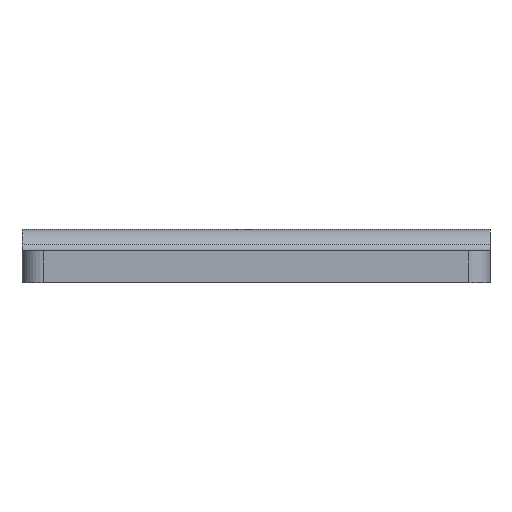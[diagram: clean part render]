
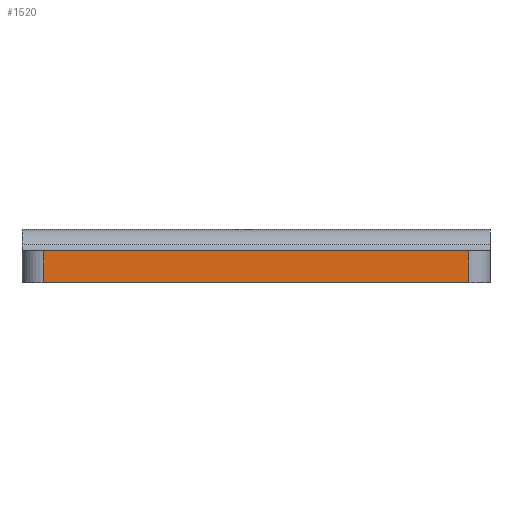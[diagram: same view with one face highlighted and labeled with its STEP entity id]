
A CAD part, front view. The second image highlights one B-rep face of the part: STEP entity #1520.
In plain terms, the highlighted planar face has unit normal (0, -1, 0).
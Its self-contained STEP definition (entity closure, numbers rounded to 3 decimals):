
#116 = EDGE_LOOP ( 'NONE', ( #1411, #1420, #1419, #1431 ) ) ;
#441 = DIRECTION ( 'NONE',  ( -1., 0., 0. ) ) ;
#528 = DIRECTION ( 'NONE',  ( 0., 0., 1. ) ) ;
#529 = DIRECTION ( 'NONE',  ( 0., 0., -1. ) ) ;
#533 = CARTESIAN_POINT ( 'NONE',  ( 84., -120., 1. ) ) ;
#534 = CARTESIAN_POINT ( 'NONE',  ( 4., -120., -5. ) ) ;
#737 = AXIS2_PLACEMENT_3D ( 'NONE', #895, #1307, #893 ) ;
#771 = LINE ( 'NONE', #534, #775 ) ;
#775 = VECTOR ( 'NONE', #529, 1000. ) ;
#788 = VECTOR ( 'NONE', #528, 1000. ) ;
#791 = LINE ( 'NONE', #533, #788 ) ;
#796 = VECTOR ( 'NONE', #441, 1000. ) ;
#800 = LINE ( 'NONE', #1077, #796 ) ;
#806 = VECTOR ( 'NONE', #1093, 1000. ) ;
#808 = LINE ( 'NONE', #1122, #806 ) ;
#843 = FACE_OUTER_BOUND ( 'NONE', #116, .T. ) ;
#893 = DIRECTION ( 'NONE',  ( 0., 0., 1. ) ) ;
#895 = CARTESIAN_POINT ( 'NONE',  ( 88., -120., -5. ) ) ;
#901 = PLANE ( 'NONE',  #737 ) ;
#977 = CARTESIAN_POINT ( 'NONE',  ( 84., -120., 1. ) ) ;
#988 = VERTEX_POINT ( 'NONE', #1016 ) ;
#1016 = CARTESIAN_POINT ( 'NONE',  ( 4., -120., -5. ) ) ;
#1024 = CARTESIAN_POINT ( 'NONE',  ( 84., -120., -5. ) ) ;
#1053 = CARTESIAN_POINT ( 'NONE',  ( 4., -120., 1. ) ) ;
#1067 = VERTEX_POINT ( 'NONE', #977 ) ;
#1077 = CARTESIAN_POINT ( 'NONE',  ( 88., -120., -5. ) ) ;
#1093 = DIRECTION ( 'NONE',  ( -1., 0., 0. ) ) ;
#1122 = CARTESIAN_POINT ( 'NONE',  ( 88., -120., 1. ) ) ;
#1286 = VERTEX_POINT ( 'NONE', #1053 ) ;
#1290 = VERTEX_POINT ( 'NONE', #1024 ) ;
#1307 = DIRECTION ( 'NONE',  ( 0., 1., 0. ) ) ;
#1411 = ORIENTED_EDGE ( 'NONE', *, *, #1555, .F. ) ;
#1419 = ORIENTED_EDGE ( 'NONE', *, *, #1552, .T. ) ;
#1420 = ORIENTED_EDGE ( 'NONE', *, *, #1557, .T. ) ;
#1431 = ORIENTED_EDGE ( 'NONE', *, *, #1558, .T. ) ;
#1520 = ADVANCED_FACE ( 'NONE', ( #843 ), #901, .F. ) ;
#1552 = EDGE_CURVE ( 'NONE', #1067, #1286, #808, .T. ) ;
#1555 = EDGE_CURVE ( 'NONE', #1290, #988, #800, .T. ) ;
#1557 = EDGE_CURVE ( 'NONE', #1290, #1067, #791, .T. ) ;
#1558 = EDGE_CURVE ( 'NONE', #1286, #988, #771, .T. ) ;
